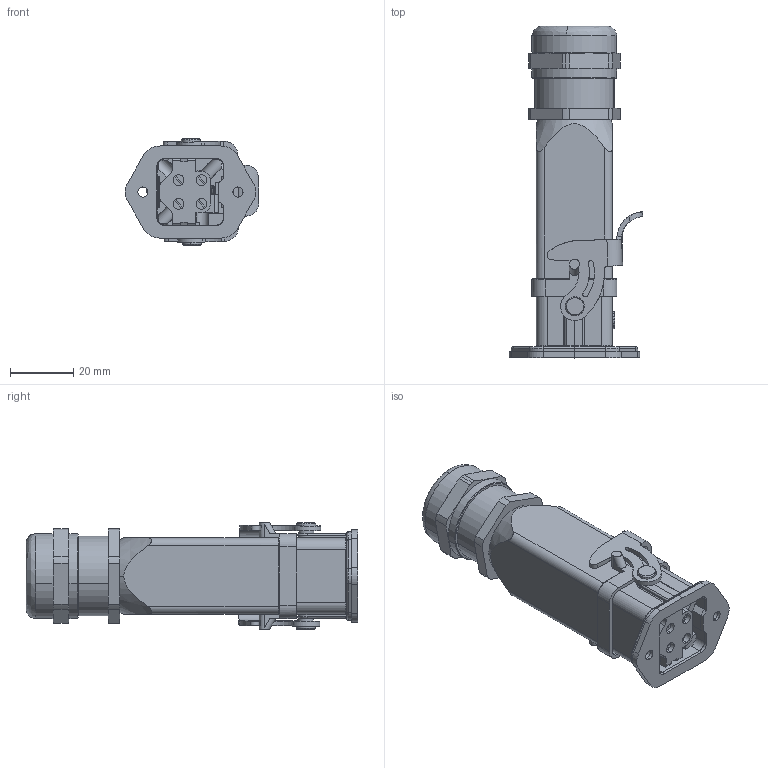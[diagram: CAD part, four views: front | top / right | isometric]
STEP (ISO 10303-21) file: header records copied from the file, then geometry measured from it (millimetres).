
FILE_DESCRIPTION (( 'STEP AP214' ), '1' );
FILE_NAME ('09003002120M HA、3针、开孔底座、顶出M20套件+金属接头.STEP', '2024-05-07T06:42:59', ( 'L' ), ( '' ), 'SwSTEP 2.0', 'SolidWorks 2019', '' );
FILE_SCHEMA (( 'AUTOMOTIVE_DESIGN' ));
Length unit declared in the file: millimetre
Products named in the file (7): H3A-MTG-M20.step.STEP; FAS-20-M.step; HA-003-M.stp.STEP; HA-003-F.stp.STEP; H3A-MAG.step.STEP; 09003002120M HA、3针、开孔底座、顶出M20套件+金属接头; 09003002120 HA、3针、开孔底座、顶出M20套件.STEP
Assembly tree (6 placements, depth 3):
  09003002120M HA、3针、开孔底座、顶出M20套件+金属接头
    09003002120 HA、3针、开孔底座、顶出M20套件.STEP
      H3A-MAG.step.STEP
      H3A-MTG-M20.step.STEP
      HA-003-F.stp.STEP
      HA-003-M.stp.STEP
    FAS-20-M.step
Bounding box: 42.19 x 104.7 x 33.67 mm (x, y, z)
Volume: 42606.1 mm3; surface area: 34879.7 mm2
Topology: 7 solids, 7 shells, 1400 faces, 3826 edges, 2473 vertices
Faces by surface type: plane 654, cylinder 503, bspline 141, torus 54, cone 40, sphere 8
Entity records: 53600 total; most frequent: CARTESIAN_POINT 19306, ORIENTED_EDGE 7608, DIRECTION 6460, EDGE_CURVE 3804, VERTEX_POINT 2469, AXIS2_PLACEMENT_3D 2199, VECTOR 2062, LINE 2062
